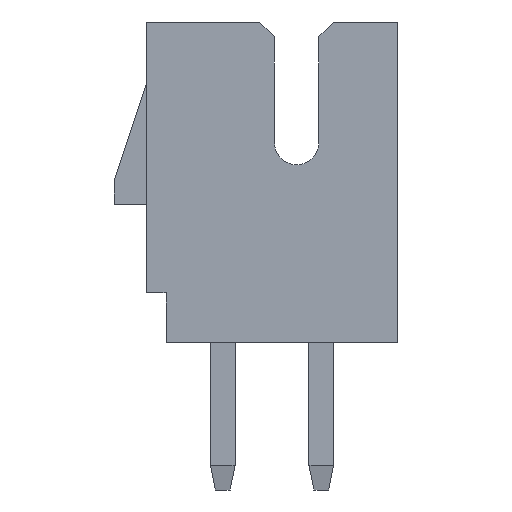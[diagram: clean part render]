
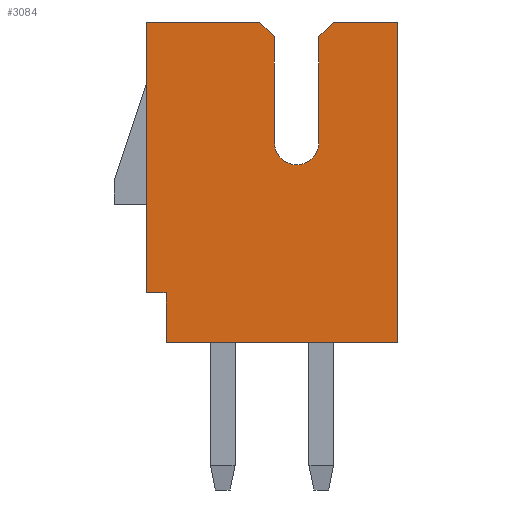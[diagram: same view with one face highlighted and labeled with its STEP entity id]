
A CAD part, left-side view. The second image highlights one B-rep face of the part: STEP entity #3084.
In plain terms, the highlighted planar face has unit normal (-1, 0, 0).
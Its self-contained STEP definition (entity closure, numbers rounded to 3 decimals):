
#1046=CARTESIAN_POINT('Vertex',(-8.,5.1,1.)) ;
#1049=CARTESIAN_POINT('Line Origine',(-8.,5.1,3.75)) ;
#1053=CARTESIAN_POINT('Vertex',(-8.,5.1,6.5)) ;
#1251=CARTESIAN_POINT('Vertex',(-8.,4.7,0.)) ;
#1254=CARTESIAN_POINT('Line Origine',(-8.,4.7,0.5)) ;
#1258=CARTESIAN_POINT('Vertex',(-8.,4.7,1.)) ;
#2989=CARTESIAN_POINT('Vertex',(-8.,2.8,6.5)) ;
#2992=CARTESIAN_POINT('Line Origine',(-8.,3.95,6.5)) ;
#3006=CARTESIAN_POINT('Axis2P3D Location',(-8.,0.,0.)) ;
#3011=CARTESIAN_POINT('Line Origine',(-8.,2.65,6.35)) ;
#3015=CARTESIAN_POINT('Vertex',(-8.,2.5,6.2)) ;
#3018=CARTESIAN_POINT('Line Origine',(-8.,4.9,1.)) ;
#3023=CARTESIAN_POINT('Line Origine',(-8.,2.35,0.)) ;
#3027=CARTESIAN_POINT('Vertex',(-8.,0.,0.)) ;
#3030=CARTESIAN_POINT('Line Origine',(-8.,0.,3.25)) ;
#3034=CARTESIAN_POINT('Vertex',(-8.,0.,6.5)) ;
#3037=CARTESIAN_POINT('Line Origine',(-8.,0.65,6.5)) ;
#3041=CARTESIAN_POINT('Vertex',(-8.,1.3,6.5)) ;
#3044=CARTESIAN_POINT('Line Origine',(-8.,1.45,6.35)) ;
#3048=CARTESIAN_POINT('Vertex',(-8.,1.6,6.2)) ;
#3051=CARTESIAN_POINT('Line Origine',(-8.,1.6,5.125)) ;
#3055=CARTESIAN_POINT('Vertex',(-8.,1.6,4.05)) ;
#3058=CARTESIAN_POINT('Axis2P3D Location',(-8.,2.05,4.05)) ;
#3062=CARTESIAN_POINT('Vertex',(-8.,2.5,4.05)) ;
#3065=CARTESIAN_POINT('Line Origine',(-8.,2.5,5.125)) ;
#1050=DIRECTION('Vector Direction',(0.,0.,-1.)) ;
#1255=DIRECTION('Vector Direction',(0.,0.,-1.)) ;
#2993=DIRECTION('Vector Direction',(0.,1.,0.)) ;
#3007=DIRECTION('Axis2P3D Direction',(1.,0.,0.)) ;
#3008=DIRECTION('Axis2P3D XDirection',(0.,1.,0.)) ;
#3012=DIRECTION('Vector Direction',(0.,-0.707,-0.707)) ;
#3019=DIRECTION('Vector Direction',(0.,-1.,0.)) ;
#3024=DIRECTION('Vector Direction',(0.,-1.,0.)) ;
#3031=DIRECTION('Vector Direction',(0.,0.,1.)) ;
#3038=DIRECTION('Vector Direction',(0.,1.,0.)) ;
#3045=DIRECTION('Vector Direction',(0.,0.707,-0.707)) ;
#3052=DIRECTION('Vector Direction',(0.,0.,-1.)) ;
#3059=DIRECTION('Axis2P3D Direction',(1.,0.,0.)) ;
#3066=DIRECTION('Vector Direction',(0.,0.,1.)) ;
#3009=AXIS2_PLACEMENT_3D('Plane Axis2P3D',#3006,#3007,#3008) ;
#3060=AXIS2_PLACEMENT_3D('Circle Axis2P3D',#3058,#3059,$) ;
#3071=ORIENTED_EDGE('',*,*,#3017,.F.) ;
#3072=ORIENTED_EDGE('',*,*,#2996,.F.) ;
#3073=ORIENTED_EDGE('',*,*,#1055,.F.) ;
#3074=ORIENTED_EDGE('',*,*,#3022,.F.) ;
#3075=ORIENTED_EDGE('',*,*,#1260,.F.) ;
#3076=ORIENTED_EDGE('',*,*,#3029,.F.) ;
#3077=ORIENTED_EDGE('',*,*,#3036,.F.) ;
#3078=ORIENTED_EDGE('',*,*,#3043,.F.) ;
#3079=ORIENTED_EDGE('',*,*,#3050,.F.) ;
#3080=ORIENTED_EDGE('',*,*,#3057,.F.) ;
#3081=ORIENTED_EDGE('',*,*,#3064,.F.) ;
#3082=ORIENTED_EDGE('',*,*,#3069,.F.) ;
#1051=VECTOR('Line Direction',#1050,1.) ;
#1256=VECTOR('Line Direction',#1255,1.) ;
#2994=VECTOR('Line Direction',#2993,1.) ;
#3013=VECTOR('Line Direction',#3012,1.) ;
#3020=VECTOR('Line Direction',#3019,1.) ;
#3025=VECTOR('Line Direction',#3024,1.) ;
#3032=VECTOR('Line Direction',#3031,1.) ;
#3039=VECTOR('Line Direction',#3038,1.) ;
#3046=VECTOR('Line Direction',#3045,1.) ;
#3053=VECTOR('Line Direction',#3052,1.) ;
#3067=VECTOR('Line Direction',#3066,1.) ;
#3084=ADVANCED_FACE('\X2\96F64EF651E04F554F53\X0\',(#3083),#3010,.F.) ;
#3061=CIRCLE('generated circle',#3060,0.45) ;
#1055=EDGE_CURVE('',#1047,#1054,#1052,.F.) ;
#1260=EDGE_CURVE('',#1252,#1259,#1257,.F.) ;
#2996=EDGE_CURVE('',#1054,#2990,#2995,.F.) ;
#3017=EDGE_CURVE('',#2990,#3016,#3014,.T.) ;
#3022=EDGE_CURVE('',#1259,#1047,#3021,.F.) ;
#3029=EDGE_CURVE('',#3028,#1252,#3026,.F.) ;
#3036=EDGE_CURVE('',#3035,#3028,#3033,.F.) ;
#3043=EDGE_CURVE('',#3042,#3035,#3040,.F.) ;
#3050=EDGE_CURVE('',#3049,#3042,#3047,.F.) ;
#3057=EDGE_CURVE('',#3056,#3049,#3054,.F.) ;
#3064=EDGE_CURVE('',#3063,#3056,#3061,.F.) ;
#3069=EDGE_CURVE('',#3016,#3063,#3068,.F.) ;
#3070=EDGE_LOOP('',(#3071,#3072,#3073,#3074,#3075,#3076,#3077,#3078,#3079,#3080,#3081,#3082)) ;
#3083=FACE_OUTER_BOUND('',#3070,.T.) ;
#1052=LINE('Line',#1049,#1051) ;
#1257=LINE('Line',#1254,#1256) ;
#2995=LINE('Line',#2992,#2994) ;
#3014=LINE('Line',#3011,#3013) ;
#3021=LINE('Line',#3018,#3020) ;
#3026=LINE('Line',#3023,#3025) ;
#3033=LINE('Line',#3030,#3032) ;
#3040=LINE('Line',#3037,#3039) ;
#3047=LINE('Line',#3044,#3046) ;
#3054=LINE('Line',#3051,#3053) ;
#3068=LINE('Line',#3065,#3067) ;
#3010=PLANE('Plane',#3009) ;
#1047=VERTEX_POINT('',#1046) ;
#1054=VERTEX_POINT('',#1053) ;
#1252=VERTEX_POINT('',#1251) ;
#1259=VERTEX_POINT('',#1258) ;
#2990=VERTEX_POINT('',#2989) ;
#3016=VERTEX_POINT('',#3015) ;
#3028=VERTEX_POINT('',#3027) ;
#3035=VERTEX_POINT('',#3034) ;
#3042=VERTEX_POINT('',#3041) ;
#3049=VERTEX_POINT('',#3048) ;
#3056=VERTEX_POINT('',#3055) ;
#3063=VERTEX_POINT('',#3062) ;
